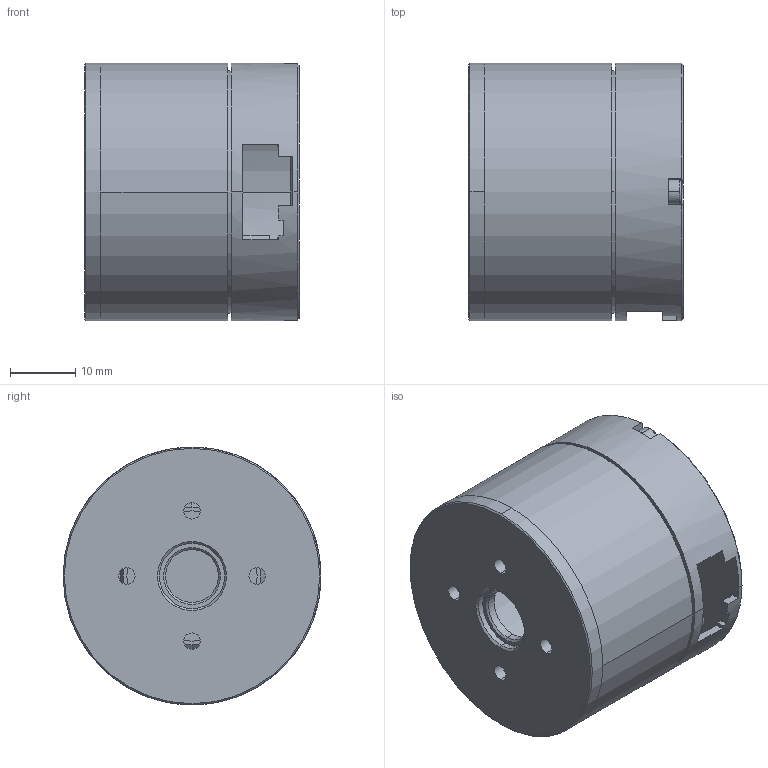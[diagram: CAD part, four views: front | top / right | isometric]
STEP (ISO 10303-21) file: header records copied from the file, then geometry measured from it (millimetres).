
FILE_DESCRIPTION (( 'STEP AP214' ), '1' );
FILE_NAME ('RMD-4015.step', '2024-01-23T08:24:12', ( '' ), ( '' ), 'SwSTEP 2.0', 'SolidWorks 2020', '' );
FILE_SCHEMA (( 'AUTOMOTIVE_DESIGN' ));
Length unit declared in the file: millimetre
Products named in the file (1): RMD-4015
Bounding box: 33 x 39.6 x 39.6 mm (x, y, z)
Volume: 9982.5 mm3; surface area: 16103.4 mm2
Topology: 7 solids, 9 shells, 300 faces, 747 edges, 473 vertices
Faces by surface type: cylinder 128, plane 113, cone 50, bspline 6, torus 3
Entity records: 9166 total; most frequent: CARTESIAN_POINT 1840, DIRECTION 1596, ORIENTED_EDGE 1454, EDGE_CURVE 727, AXIS2_PLACEMENT_3D 643, VERTEX_POINT 473, EDGE_LOOP 352, CIRCLE 348
